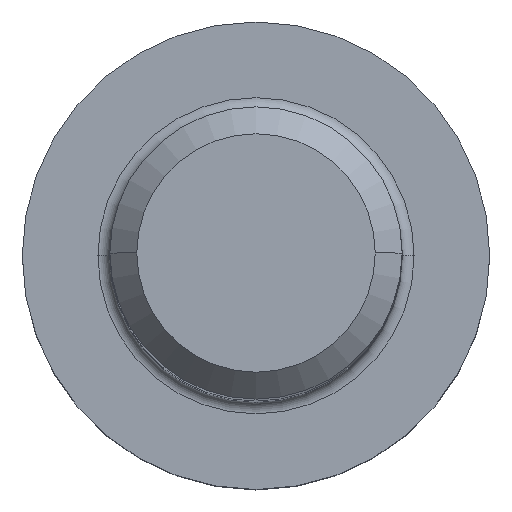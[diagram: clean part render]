
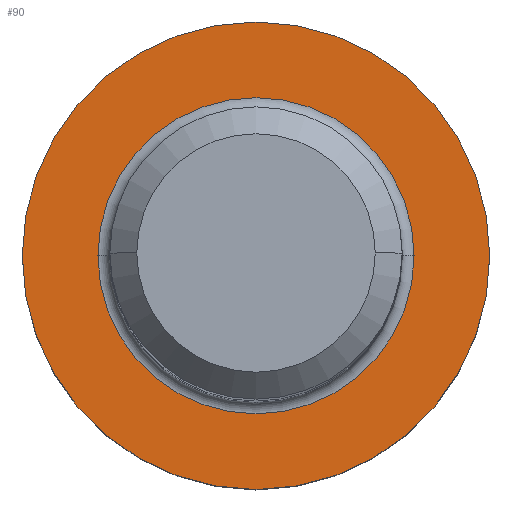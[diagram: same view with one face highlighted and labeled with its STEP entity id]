
A CAD part, top view. The second image highlights one B-rep face of the part: STEP entity #90.
In plain terms, the highlighted planar face has unit normal (0, 0, 1).
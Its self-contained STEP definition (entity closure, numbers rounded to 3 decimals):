
#90=ADVANCED_FACE('',(#176,#177),#178,.T.);
#176=FACE_BOUND('',#256,.T.);
#177=FACE_OUTER_BOUND('',#257,.T.);
#178=PLANE('',#258);
#256=EDGE_LOOP('',(#438,#439));
#257=EDGE_LOOP('',(#440,#441));
#258=AXIS2_PLACEMENT_3D('',#442,#443,#444);
#438=ORIENTED_EDGE('',*,*,#489,.T.);
#439=ORIENTED_EDGE('',*,*,#471,.T.);
#440=ORIENTED_EDGE('',*,*,#458,.T.);
#441=ORIENTED_EDGE('',*,*,#522,.T.);
#442=CARTESIAN_POINT('',(6.5,0.0,0.0));
#443=DIRECTION('',(0.0,0.0,1.0));
#444=DIRECTION('',(1.0,0.0,0.0));
#458=EDGE_CURVE('',#528,#532,#534,.T.);
#471=EDGE_CURVE('',#554,#552,#555,.T.);
#489=EDGE_CURVE('',#552,#554,#579,.T.);
#522=EDGE_CURVE('',#532,#528,#624,.T.);
#528=VERTEX_POINT('',#630);
#532=VERTEX_POINT('',#635);
#534=CIRCLE('',#638,8.0);
#552=VERTEX_POINT('',#658);
#554=VERTEX_POINT('',#660);
#555=CIRCLE('',#661,5.41);
#579=CIRCLE('',#689,5.41);
#624=CIRCLE('',#752,8.0);
#630=CARTESIAN_POINT('',(8.0,0.0,0.0));
#635=CARTESIAN_POINT('',(-8.0,0.,0.0));
#638=AXIS2_PLACEMENT_3D('',#761,#762,#763);
#658=CARTESIAN_POINT('',(5.41,0.0,0.0));
#660=CARTESIAN_POINT('',(-5.41,0.,0.0));
#661=AXIS2_PLACEMENT_3D('',#787,#788,#789);
#689=AXIS2_PLACEMENT_3D('',#818,#819,#820);
#752=AXIS2_PLACEMENT_3D('',#845,#846,#847);
#761=CARTESIAN_POINT('',(0.0,0.0,0.0));
#762=DIRECTION('',(0.0,0.0,1.0));
#763=DIRECTION('',(1.0,0.0,0.0));
#787=CARTESIAN_POINT('',(0.0,0.0,0.0));
#788=DIRECTION('',(0.0,0.0,-1.0));
#789=DIRECTION('',(1.0,0.0,0.0));
#818=CARTESIAN_POINT('',(0.0,0.0,0.0));
#819=DIRECTION('',(0.0,0.0,-1.0));
#820=DIRECTION('',(1.0,0.0,0.0));
#845=CARTESIAN_POINT('',(0.0,0.0,0.0));
#846=DIRECTION('',(0.0,0.0,1.0));
#847=DIRECTION('',(1.0,0.0,0.0));
